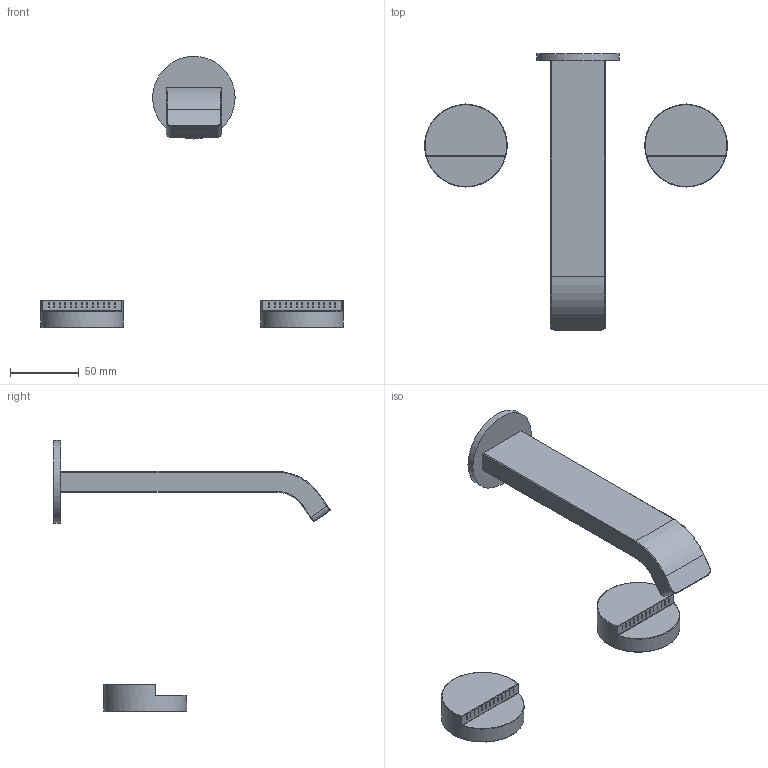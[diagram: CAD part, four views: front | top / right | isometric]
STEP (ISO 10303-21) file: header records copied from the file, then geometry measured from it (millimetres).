
FILE_DESCRIPTION(/* description */ (''),/* implementation_level */ '2;1');
FILE_NAME(/* name */ 'TVZ10600200061_Set.step',/* time_stamp */ '2023-01-19T17:43:56+01:00',/* author */ (''),/* organization */ (''),/* preprocessor_version */ 'ST-DEVELOPER v19.2',/* originating_system */ 'Autodesk Translation Framework v11.17.0.187',/* authorisation */ '');
FILE_SCHEMA (('AUTOMOTIVE_DESIGN { 1 0 10303 214 3 1 1 }'));
Length unit declared in the file: millimetre
Products named in the file (6): (Nicht gespeichert); B; B_1; Komponente31; A; Komponente8
Assembly tree (6 placements, depth 3):
  (Nicht gespeichert)
    B
      Komponente31
    B_1
      Komponente31
    A
      Komponente8
Bounding box: 220 x 200.95 x 196.95 mm (x, y, z)
Volume: 226874.2 mm3; surface area: 50978.2 mm2
Topology: 7 solids, 8 shells, 584 faces, 1322 edges, 778 vertices
Faces by surface type: cylinder 228, plane 160, torus 124, sphere 58, bspline 8, cone 6
Full cylindrical faces by diameter (mm): 3.9 x2, 6.5 x2, 15.8 x1, 60 x3
Entity records: 16750 total; most frequent: CARTESIAN_POINT 3896, DIRECTION 2869, ORIENTED_EDGE 2540, EDGE_CURVE 1270, AXIS2_PLACEMENT_3D 1162, VERTEX_POINT 744, EDGE_LOOP 592, CIRCLE 592
